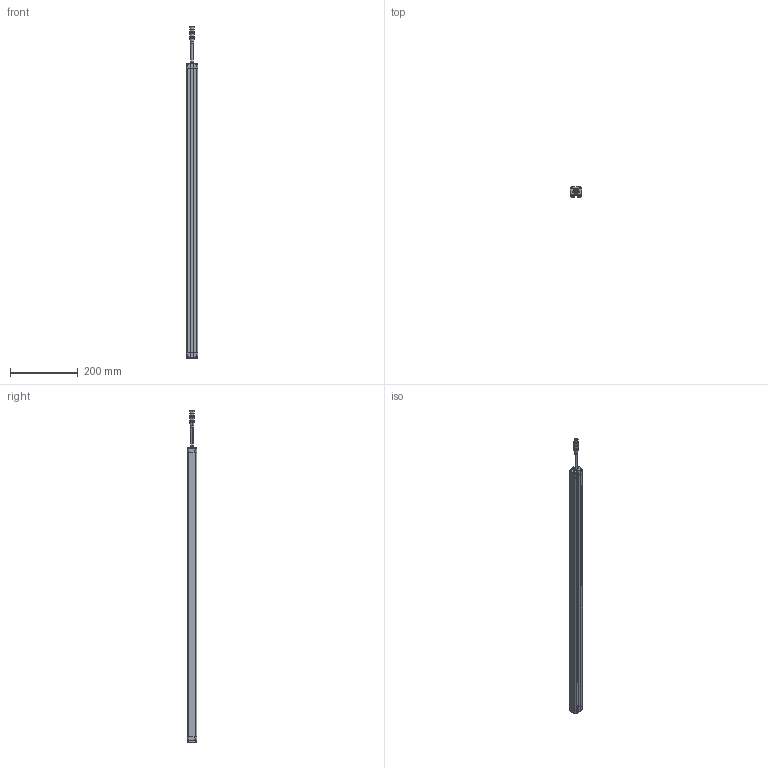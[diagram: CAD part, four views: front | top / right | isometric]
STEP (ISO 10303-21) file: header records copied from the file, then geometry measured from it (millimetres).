
FILE_DESCRIPTION((''),'2;1');
FILE_NAME('SMT1-CGQ_ASM','2025-08-08T08:32:10',('Administrator'),(''),'CREO PARAMETRIC BY PTC INC, 2016510','CREO PARAMETRIC BY PTC INC, 2016510','');
FILE_SCHEMA(('CONFIG_CONTROL_DESIGN'));
Length unit declared in the file: millimetre
Products named in the file (7): SMT1-XINGCAI-V1; SMT1-SDG-V1; SMT1-XDG-V1; M12-CHATOU; ST3X18; CT4-LVGUANGBAN; SMT1-CGQ_ASM
Assembly tree (13 placements, depth 2):
  SMT1-CGQ_ASM
    SMT1-XINGCAI-V1
    SMT1-SDG-V1
    SMT1-XDG-V1
    M12-CHATOU
    ST3X18  x8
    CT4-LVGUANGBAN
Bounding box: 33 x 28.02 x 979.5 mm (x, y, z)
Volume: 675851 mm3; surface area: 219102 mm2
Topology: 13 solids, 13 shells, 712 faces, 1868 edges, 1200 vertices
Faces by surface type: plane 382, cylinder 184, extrusion 86, sphere 32, cone 20, bspline 8
Entity records: 18128 total; most frequent: CARTESIAN_POINT 4347, ORIENTED_EDGE 2916, DIRECTION 2580, EDGE_CURVE 1458, VECTOR 1036, VERTEX_POINT 955, LINE 950, AXIS2_PLACEMENT_3D 772
